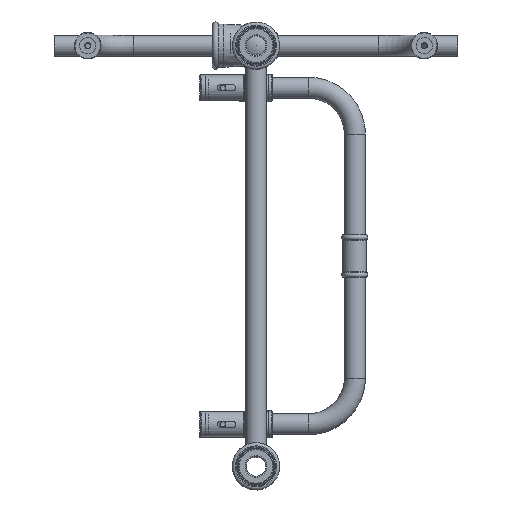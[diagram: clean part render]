
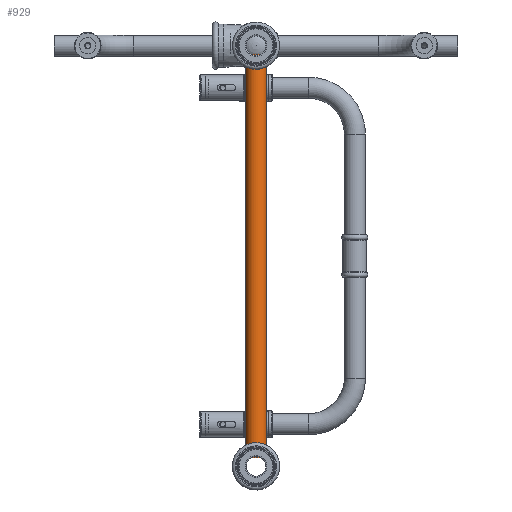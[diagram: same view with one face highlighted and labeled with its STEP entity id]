
A CAD part, front view. The second image highlights one B-rep face of the part: STEP entity #929.
In plain terms, the highlighted cylindrical face has radius 10 mm (diameter 20 mm), a full revolution.
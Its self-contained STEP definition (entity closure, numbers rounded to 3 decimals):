
#929 = ADVANCED_FACE( '', ( #1960, #1961 ), #1962, .T. );
#1960 = FACE_OUTER_BOUND( '', #3603, .T. );
#1961 = FACE_OUTER_BOUND( '', #3604, .T. );
#1962 = CYLINDRICAL_SURFACE( '', #3605, 10. );
#3603 = EDGE_LOOP( '', ( #5337 ) );
#3604 = EDGE_LOOP( '', ( #5338 ) );
#3605 = AXIS2_PLACEMENT_3D( '', #5339, #5340, #5341 );
#5337 = ORIENTED_EDGE( '', *, *, #7106, .T. );
#5338 = ORIENTED_EDGE( '', *, *, #7107, .F. );
#5339 = CARTESIAN_POINT( '', ( 192., 0., 0. ) );
#5340 = DIRECTION( '', ( 1., 0., 0. ) );
#5341 = DIRECTION( '', ( 0., 0., 1. ) );
#7106 = EDGE_CURVE( '', #7965, #7965, #7966, .T. );
#7107 = EDGE_CURVE( '', #7967, #7967, #7968, .T. );
#7965 = VERTEX_POINT( '', #10456 );
#7966 = CIRCLE( '', #10457, 10. );
#7967 = VERTEX_POINT( '', #10458 );
#7968 = CIRCLE( '', #10459, 10. );
#10456 = CARTESIAN_POINT( '', ( 192., 10., 0. ) );
#10457 = AXIS2_PLACEMENT_3D( '', #16023, #16024, #16025 );
#10458 = CARTESIAN_POINT( '', ( -192., 10., 0. ) );
#10459 = AXIS2_PLACEMENT_3D( '', #16026, #16027, #16028 );
#16023 = CARTESIAN_POINT( '', ( 192., 0., 0. ) );
#16024 = DIRECTION( '', ( -1., 0., 0. ) );
#16025 = DIRECTION( '', ( 0., 1., 0. ) );
#16026 = CARTESIAN_POINT( '', ( -192., 0., 0. ) );
#16027 = DIRECTION( '', ( -1., 0., 0. ) );
#16028 = DIRECTION( '', ( 0., 1., 0. ) );
